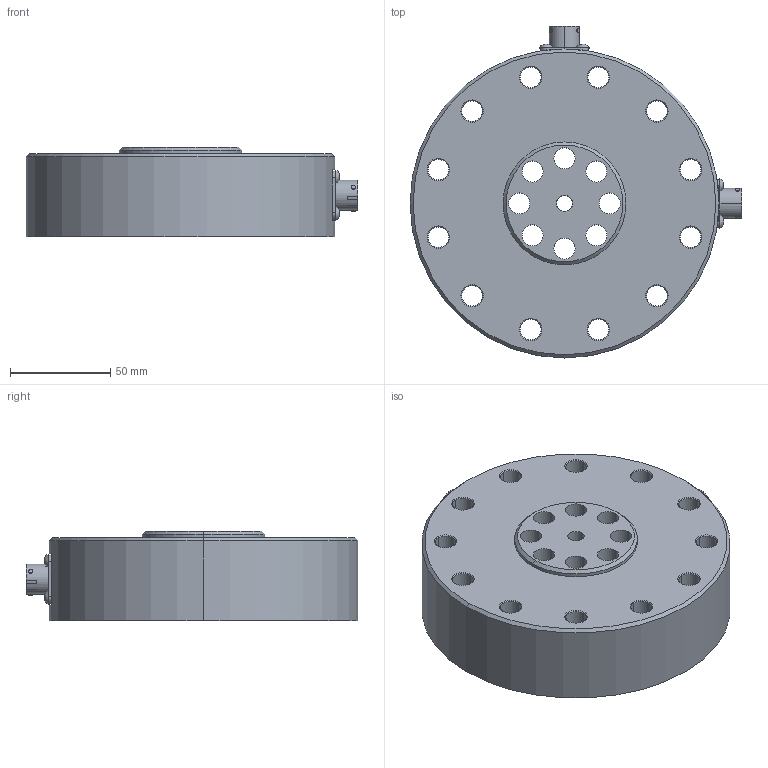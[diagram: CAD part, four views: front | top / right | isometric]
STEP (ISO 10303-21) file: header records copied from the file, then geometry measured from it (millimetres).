
FILE_DESCRIPTION (( 'STEP AP203' ), '1' );
FILE_NAME ('Part9.STEP', '2014-01-06T22:41:48', ( '' ), ( '' ), 'SwSTEP 2.0', 'SolidWorks 2013', '' );
FILE_SCHEMA (( 'CONFIG_CONTROL_DESIGN' ));
Length unit declared in the file: inch
Products named in the file (1): Part9
Bounding box: 165.42 x 165.42 x 44.45 mm (x, y, z)
Volume: 697998.7 mm3; surface area: 85130.8 mm2
Topology: 1 solids, 1 shells, 315 faces, 760 edges, 492 vertices
Faces by surface type: plane 148, cylinder 115, cone 44, bspline 8
Entity records: 10309 total; most frequent: CARTESIAN_POINT 2646, DIRECTION 1600, ORIENTED_EDGE 1520, EDGE_CURVE 760, AXIS2_PLACEMENT_3D 578, VERTEX_POINT 492, LINE 444, VECTOR 444
